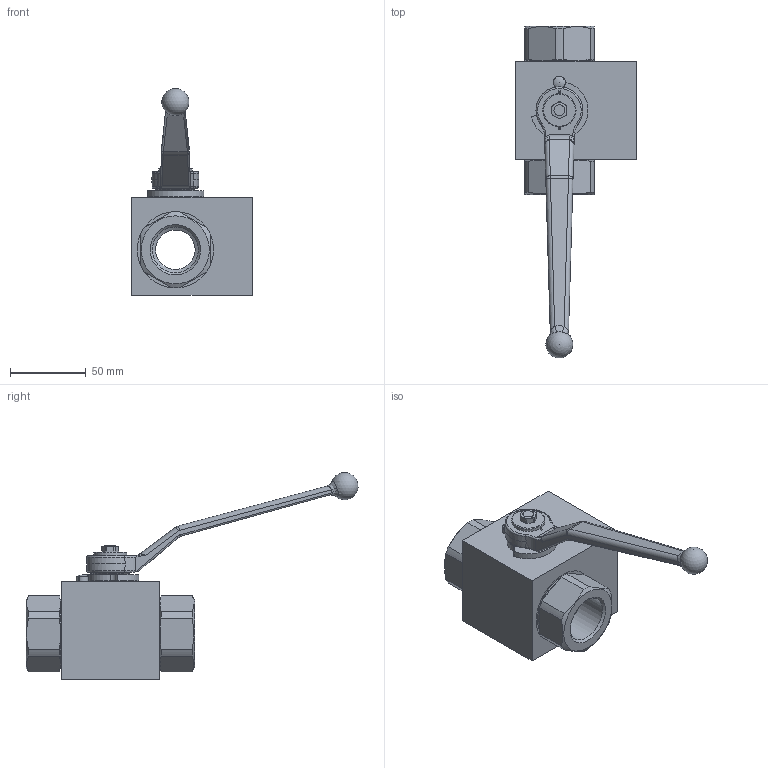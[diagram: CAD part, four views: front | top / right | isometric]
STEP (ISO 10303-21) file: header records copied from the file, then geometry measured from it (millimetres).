
FILE_DESCRIPTION( ( 'Unknown' ), '1' );
FILE_NAME( 'H:/PISTER/3D-MODELLE/BK3-Edelstahl stp/BK3-Edelst DN25 G1.stp', 'Unknown', ( 'Unknown' ), ( 'Unknown' ), 'PSStep 14.0', 'Unknown', ' ' );
FILE_SCHEMA( ( 'AUTOMOTIVE_DESIGN { 1 0 10303 214 1 1 1 1 }' ) );
Length unit declared in the file: millimetre
Products named in the file (12): Assem1; 58-28740-10-oa0; 02-020-009-oa1; 10-025-001-oa2; 56-032-125-oa6; 09-14-002; 04-025-040-oa7; 06-025-009-oa10; 58-0440-007; 58-0933-248; Griff_SW14; 01-025-031-oa11
Assembly tree (11 placements, depth 2):
  Assem1
    58-28740-10-oa0
    02-020-009-oa1
    10-025-001-oa2
    56-032-125-oa6
    09-14-002
    04-025-040-oa7
    06-025-009-oa10
    58-0440-007
    58-0933-248
    Griff_SW14
    01-025-031-oa11
Bounding box: 80 x 219.68 x 136.9 mm (x, y, z)
Volume: 287878.9 mm3; surface area: 70754.1 mm2
Topology: 11 solids, 11 shells, 295 faces, 767 edges, 492 vertices
Faces by surface type: plane 103, cylinder 93, cone 33, bspline 32, torus 31, sphere 3
Full cylindrical faces by diameter (mm): 5 x1, 6 x1, 6.6 x1, 7.98 x1, 20 x2, 20.2 x2, 22 x1, 24 x1, 25 x2, 30.29 x2, 30.291 x2, 32 x1, 42 x1, 45 x3, 46 x2, 50.5 x2
Entity records: 13516 total; most frequent: CARTESIAN_POINT 4415, ORIENTED_EDGE 1364, DIRECTION 1291, EDGE_CURVE 682, AXIS2_PLACEMENT_3D 532, VERTEX_POINT 461, EDGE_LOOP 367, FACE_OUTER_BOUND 324
